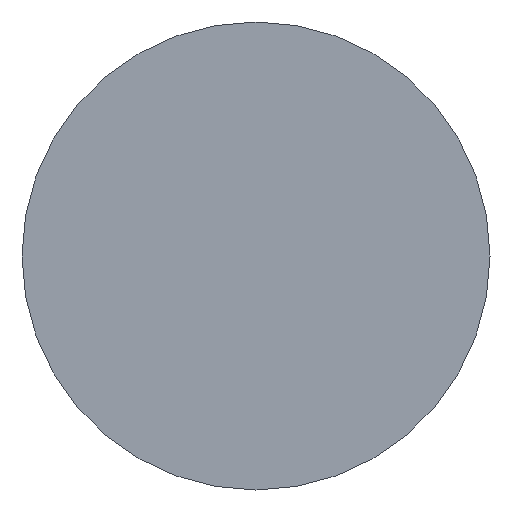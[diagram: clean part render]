
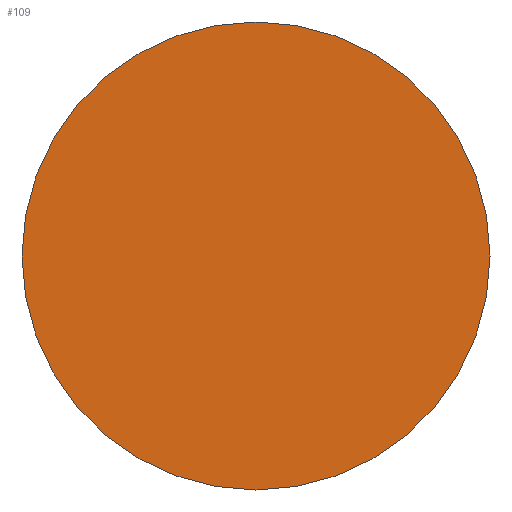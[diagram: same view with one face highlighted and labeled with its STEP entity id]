
A CAD part, front view. The second image highlights one B-rep face of the part: STEP entity #109.
In plain terms, the highlighted planar face has unit normal (0, -1, 0).
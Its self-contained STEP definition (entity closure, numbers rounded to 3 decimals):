
#24 = VERTEX_POINT('',#25);
#25 = CARTESIAN_POINT('',(60.,-119.7,425.));
#32 = CYLINDRICAL_SURFACE('',#33,60.);
#33 = AXIS2_PLACEMENT_3D('',#34,#35,#36);
#34 = CARTESIAN_POINT('',(0.,70.,425.));
#35 = DIRECTION('',(-0.,1.,-0.));
#36 = DIRECTION('',(1.,0.,0.));
#51 = EDGE_CURVE('',#24,#24,#52,.T.);
#52 = SURFACE_CURVE('',#53,(#58,#65),.PCURVE_S1.);
#53 = CIRCLE('',#54,60.);
#54 = AXIS2_PLACEMENT_3D('',#55,#56,#57);
#55 = CARTESIAN_POINT('',(0.,-119.7,425.));
#56 = DIRECTION('',(0.,-1.,0.));
#57 = DIRECTION('',(1.,0.,0.));
#58 = PCURVE('',#32,#59);
#59 = DEFINITIONAL_REPRESENTATION('',(#60),#64);
#60 = LINE('',#61,#62);
#61 = CARTESIAN_POINT('',(-0.,-189.7));
#62 = VECTOR('',#63,1.);
#63 = DIRECTION('',(-1.,0.));
#64 = ( GEOMETRIC_REPRESENTATION_CONTEXT(2) 
PARAMETRIC_REPRESENTATION_CONTEXT() REPRESENTATION_CONTEXT('2D SPACE',''
  ) );
#65 = PCURVE('',#66,#71);
#66 = PLANE('',#67);
#67 = AXIS2_PLACEMENT_3D('',#68,#69,#70);
#68 = CARTESIAN_POINT('',(0.,-119.7,425.));
#69 = DIRECTION('',(-0.,-1.,-0.));
#70 = DIRECTION('',(0.,0.,-1.));
#71 = DEFINITIONAL_REPRESENTATION('',(#72),#76);
#72 = CIRCLE('',#73,60.);
#73 = AXIS2_PLACEMENT_2D('',#74,#75);
#74 = CARTESIAN_POINT('',(0.,0.));
#75 = DIRECTION('',(0.,1.));
#76 = ( GEOMETRIC_REPRESENTATION_CONTEXT(2) 
PARAMETRIC_REPRESENTATION_CONTEXT() REPRESENTATION_CONTEXT('2D SPACE',''
  ) );
#109 = ADVANCED_FACE('',(#110),#66,.T.);
#110 = FACE_BOUND('',#111,.T.);
#111 = EDGE_LOOP('',(#112));
#112 = ORIENTED_EDGE('',*,*,#51,.T.);
